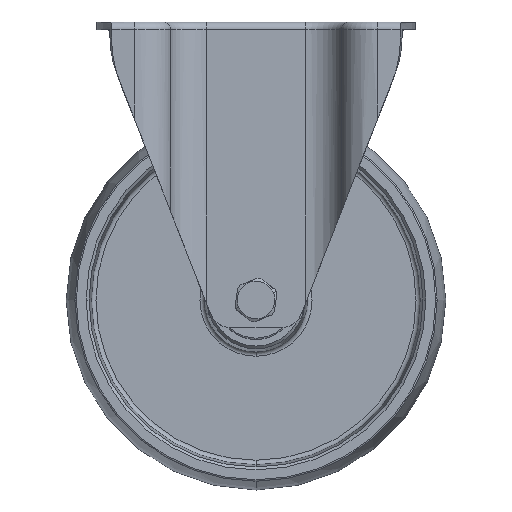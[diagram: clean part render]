
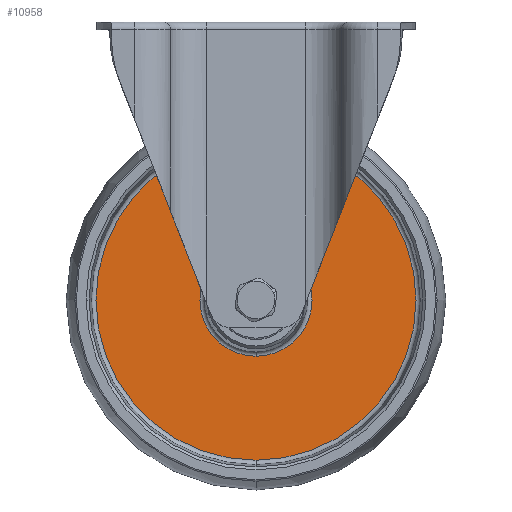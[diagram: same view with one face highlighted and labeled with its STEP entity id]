
A CAD part, top view. The second image highlights one B-rep face of the part: STEP entity #10958.
In plain terms, the highlighted planar face has unit normal (0, 0, 1).
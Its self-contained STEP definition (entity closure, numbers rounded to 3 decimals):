
#102 = CIRCLE ( 'NONE', #3010, 52.699 ) ;
#259 = VERTEX_POINT ( 'NONE', #2430 ) ;
#455 = EDGE_CURVE ( 'NONE', #7203, #9098, #4665, .T. ) ;
#866 = CARTESIAN_POINT ( 'NONE',  ( 0., -18.459, 2.25 ) ) ;
#1101 = DIRECTION ( 'NONE',  ( 0., 0., -1. ) ) ;
#1161 = FACE_BOUND ( 'NONE', #1613, .T. ) ;
#1305 = AXIS2_PLACEMENT_3D ( 'NONE', #9899, #1723, #2111 ) ;
#1613 = EDGE_LOOP ( 'NONE', ( #7248, #4101 ) ) ;
#1723 = DIRECTION ( 'NONE',  ( 0., 0., -1. ) ) ;
#2073 = DIRECTION ( 'NONE',  ( 0., 1., 0. ) ) ;
#2111 = DIRECTION ( 'NONE',  ( 0., 1., 0. ) ) ;
#2430 = CARTESIAN_POINT ( 'NONE',  ( 0., 18.459, 2.25 ) ) ;
#2915 = EDGE_CURVE ( 'NONE', #9098, #7203, #102, .T. ) ;
#2934 = CIRCLE ( 'NONE', #1305, 18.459 ) ;
#3010 = AXIS2_PLACEMENT_3D ( 'NONE', #9315, #10909, #3101 ) ;
#3101 = DIRECTION ( 'NONE',  ( 0., 1., 0. ) ) ;
#3993 = DIRECTION ( 'NONE',  ( 0., 1., 0. ) ) ;
#4101 = ORIENTED_EDGE ( 'NONE', *, *, #8435, .T. ) ;
#4359 = DIRECTION ( 'NONE',  ( 0., 1., 0. ) ) ;
#4665 = CIRCLE ( 'NONE', #11029, 52.699 ) ;
#4941 = ORIENTED_EDGE ( 'NONE', *, *, #2915, .T. ) ;
#5640 = CARTESIAN_POINT ( 'NONE',  ( 0., 0., 2.25 ) ) ;
#5666 = CARTESIAN_POINT ( 'NONE',  ( 0., 54.122, 2.25 ) ) ;
#6285 = CARTESIAN_POINT ( 'NONE',  ( 0., 0., 2.25 ) ) ;
#6767 = EDGE_LOOP ( 'NONE', ( #4941, #7749 ) ) ;
#7203 = VERTEX_POINT ( 'NONE', #8705 ) ;
#7248 = ORIENTED_EDGE ( 'NONE', *, *, #8560, .T. ) ;
#7668 = AXIS2_PLACEMENT_3D ( 'NONE', #5640, #8491, #3993 ) ;
#7749 = ORIENTED_EDGE ( 'NONE', *, *, #455, .T. ) ;
#8115 = FACE_OUTER_BOUND ( 'NONE', #6767, .T. ) ;
#8395 = AXIS2_PLACEMENT_3D ( 'NONE', #5666, #1101, #2073 ) ;
#8435 = EDGE_CURVE ( 'NONE', #10101, #259, #2934, .T. ) ;
#8491 = DIRECTION ( 'NONE',  ( 0., 0., -1. ) ) ;
#8560 = EDGE_CURVE ( 'NONE', #259, #10101, #10759, .T. ) ;
#8686 = DIRECTION ( 'NONE',  ( 0., 0., 1. ) ) ;
#8705 = CARTESIAN_POINT ( 'NONE',  ( 0., -52.699, 2.25 ) ) ;
#9098 = VERTEX_POINT ( 'NONE', #9653 ) ;
#9315 = CARTESIAN_POINT ( 'NONE',  ( 0., 0., 2.25 ) ) ;
#9653 = CARTESIAN_POINT ( 'NONE',  ( 0., 52.699, 2.25 ) ) ;
#9899 = CARTESIAN_POINT ( 'NONE',  ( 0., 0., 2.25 ) ) ;
#10101 = VERTEX_POINT ( 'NONE', #866 ) ;
#10759 = CIRCLE ( 'NONE', #7668, 18.459 ) ;
#10790 = PLANE ( 'NONE',  #8395 ) ;
#10909 = DIRECTION ( 'NONE',  ( 0., 0., 1. ) ) ;
#10958 = ADVANCED_FACE ( 'NONE', ( #1161, #8115 ), #10790, .F. ) ;
#11029 = AXIS2_PLACEMENT_3D ( 'NONE', #6285, #8686, #4359 ) ;
